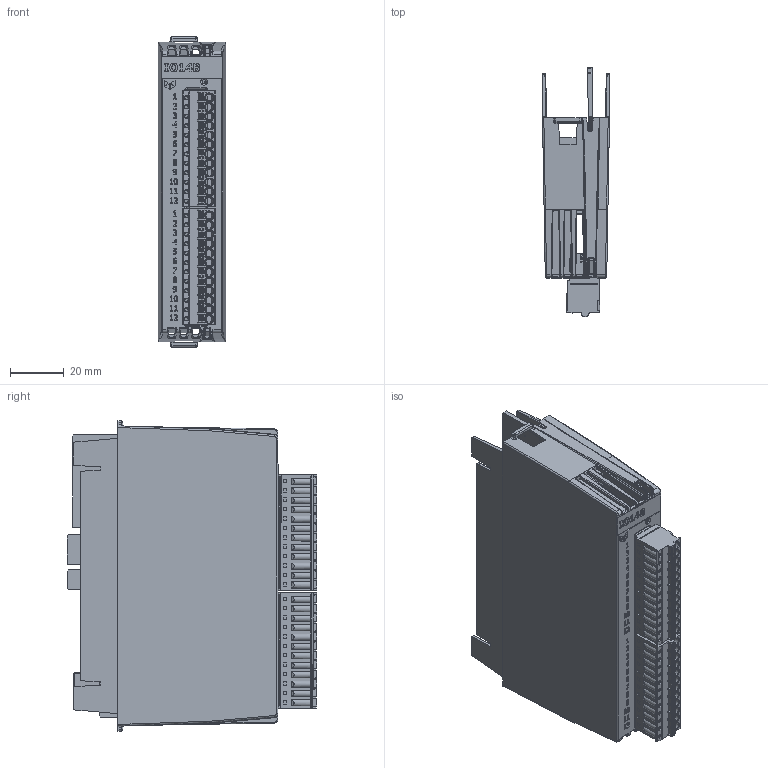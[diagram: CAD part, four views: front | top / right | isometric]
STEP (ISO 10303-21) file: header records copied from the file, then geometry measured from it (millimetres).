
FILE_DESCRIPTION(/* description */ (''),/* implementation_level */ '2;1');
FILE_NAME(/* name */ 'C:\Users\Public\Documents\Autodesk\Inventor 2023\IO14B_Simplified.stp',/* time_stamp */ '2024-10-16T20:26:03+02:00',/* author */ ('shoma'),/* organization */ (''),/* preprocessor_version */ 'ST-DEVELOPER v19',/* originating_system */ 'Autodesk Inventor 2023',/* authorisation */ '');
FILE_SCHEMA (('AUTOMOTIVE_DESIGN { 1 0 10303 214 3 1 1 }'));
Products named in the file (1): IO14B_Simplified
Bounding box: 24.95 x 92.98 x 115.5 mm (x, y, z)
Volume: 132666.3 mm3; surface area: 67327.6 mm2
Topology: 1 solids, 49 shells, 6377 faces, 16887 edges, 10811 vertices
Faces by surface type: plane 4221, cylinder 1335, bspline 557, cone 217, torus 25, sphere 22
Full cylindrical faces by diameter (mm): 0.296 x2, 0.3 x116, 0.457 x2, 1.17 x24, 1.2 x24, 1.25 x24, 1.3 x24, 1.6 x24, 2.5 x1, 3.1 x24
Entity records: 217810 total; most frequent: CARTESIAN_POINT 53870, ORIENTED_EDGE 33720, DIRECTION 30745, EDGE_CURVE 16860, LINE 12443, VECTOR 12443, VERTEX_POINT 10811, AXIS2_PLACEMENT_3D 9151
